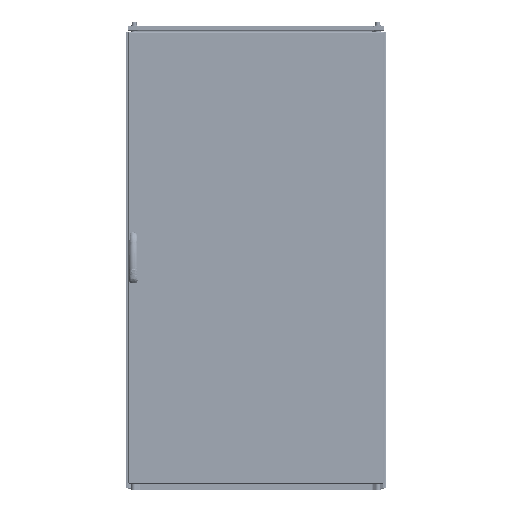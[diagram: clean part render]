
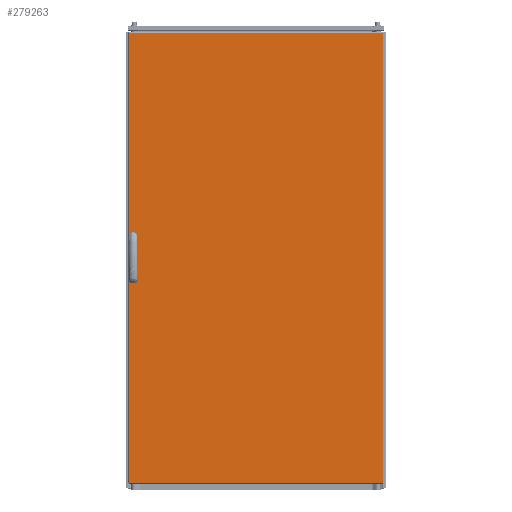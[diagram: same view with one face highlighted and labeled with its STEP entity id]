
A CAD part, top view. The second image highlights one B-rep face of the part: STEP entity #279263.
In plain terms, the highlighted planar face has unit normal (0, 0, 1).
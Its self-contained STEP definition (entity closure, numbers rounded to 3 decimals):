
#6264 = EDGE_CURVE ( 'NONE', #303067, #161974, #16558, .T. ) ;
#6282 = VECTOR ( 'NONE', #219604, 1000. ) ;
#15053 = VERTEX_POINT ( 'NONE', #223312 ) ;
#16558 = LINE ( 'NONE', #192201, #137229 ) ;
#18569 = DIRECTION ( 'NONE',  ( 1., 0., 0. ) ) ;
#18626 = DIRECTION ( 'NONE',  ( 0., 1., 0. ) ) ;
#20333 = CARTESIAN_POINT ( 'NONE',  ( 0., 1760., 19. ) ) ;
#20357 = VERTEX_POINT ( 'NONE', #159128 ) ;
#29603 = DIRECTION ( 'NONE',  ( 0., 0., 1. ) ) ;
#32274 = CARTESIAN_POINT ( 'NONE',  ( 9.7, 799.75, 19. ) ) ;
#33797 = ORIENTED_EDGE ( 'NONE', *, *, #60694, .F. ) ;
#40255 = CARTESIAN_POINT ( 'NONE',  ( 28.7, 912.25, 19. ) ) ;
#40417 = ORIENTED_EDGE ( 'NONE', *, *, #186227, .T. ) ;
#41315 = EDGE_CURVE ( 'NONE', #105192, #101961, #77697, .T. ) ;
#44443 = EDGE_CURVE ( 'NONE', #243345, #311899, #150021, .T. ) ;
#45154 = FACE_BOUND ( 'NONE', #300163, .T. ) ;
#47299 = DIRECTION ( 'NONE',  ( 1., 0., 0. ) ) ;
#48522 = ORIENTED_EDGE ( 'NONE', *, *, #173273, .F. ) ;
#52817 = DIRECTION ( 'NONE',  ( 0., -1., 0. ) ) ;
#56467 = CIRCLE ( 'NONE', #267921, 9.5 ) ;
#60340 = CARTESIAN_POINT ( 'NONE',  ( 9.7, 847.75, 19. ) ) ;
#60679 = VECTOR ( 'NONE', #204133, 1000. ) ;
#60694 = EDGE_CURVE ( 'NONE', #192522, #20357, #76109, .T. ) ;
#66518 = EDGE_CURVE ( 'NONE', #15053, #243523, #135951, .T. ) ;
#66730 = FACE_BOUND ( 'NONE', #274162, .T. ) ;
#72667 = CARTESIAN_POINT ( 'NONE',  ( 28.7, 799.75, 19. ) ) ;
#73287 = DIRECTION ( 'NONE',  ( 0., 0., -1. ) ) ;
#73477 = ORIENTED_EDGE ( 'NONE', *, *, #41315, .F. ) ;
#76109 = CIRCLE ( 'NONE', #303645, 9.5 ) ;
#77697 = LINE ( 'NONE', #178788, #289964 ) ;
#87834 = DIRECTION ( 'NONE',  ( 0., 1., 0. ) ) ;
#93196 = FACE_OUTER_BOUND ( 'NONE', #203738, .T. ) ;
#98853 = CARTESIAN_POINT ( 'NONE',  ( 19.2, 799.75, 19. ) ) ;
#100483 = DIRECTION ( 'NONE',  ( 1., 0., 0. ) ) ;
#101961 = VERTEX_POINT ( 'NONE', #32274 ) ;
#102337 = ORIENTED_EDGE ( 'NONE', *, *, #212065, .T. ) ;
#105192 = VERTEX_POINT ( 'NONE', #60340 ) ;
#119734 = ORIENTED_EDGE ( 'NONE', *, *, #290621, .F. ) ;
#122075 = DIRECTION ( 'NONE',  ( 0., 0., 1. ) ) ;
#127449 = CARTESIAN_POINT ( 'NONE',  ( 3., 1757., 19. ) ) ;
#127840 = LINE ( 'NONE', #281919, #60679 ) ;
#129005 = CARTESIAN_POINT ( 'NONE',  ( 19.2, 912.25, 19. ) ) ;
#131526 = CARTESIAN_POINT ( 'NONE',  ( 3., 3., 19. ) ) ;
#135951 = CIRCLE ( 'NONE', #321097, 9.5 ) ;
#137229 = VECTOR ( 'NONE', #87834, 1000. ) ;
#141328 = PLANE ( 'NONE',  #177182 ) ;
#144443 = DIRECTION ( 'NONE',  ( 0., 0., 1. ) ) ;
#146650 = CARTESIAN_POINT ( 'NONE',  ( 3., 1760., 19. ) ) ;
#147822 = DIRECTION ( 'NONE',  ( -1., 0., 0. ) ) ;
#150021 = LINE ( 'NONE', #178185, #158407 ) ;
#154670 = ORIENTED_EDGE ( 'NONE', *, *, #6264, .F. ) ;
#156858 = ORIENTED_EDGE ( 'NONE', *, *, #181790, .T. ) ;
#158407 = VECTOR ( 'NONE', #47299, 1000. ) ;
#159128 = CARTESIAN_POINT ( 'NONE',  ( 9.7, 960.25, 19. ) ) ;
#159159 = VERTEX_POINT ( 'NONE', #127449 ) ;
#161974 = VERTEX_POINT ( 'NONE', #165553 ) ;
#162843 = LINE ( 'NONE', #243960, #263402 ) ;
#165553 = CARTESIAN_POINT ( 'NONE',  ( 28.7, 847.75, 19. ) ) ;
#173273 = EDGE_CURVE ( 'NONE', #101961, #303067, #56467, .T. ) ;
#177182 = AXIS2_PLACEMENT_3D ( 'NONE', #20333, #73287, #293752 ) ;
#178185 = CARTESIAN_POINT ( 'NONE',  ( 0., 3., 19. ) ) ;
#178788 = CARTESIAN_POINT ( 'NONE',  ( 9.7, 847.75, 19. ) ) ;
#181790 = EDGE_CURVE ( 'NONE', #159159, #243345, #224582, .T. ) ;
#184815 = EDGE_CURVE ( 'NONE', #243523, #192522, #193125, .T. ) ;
#186227 = EDGE_CURVE ( 'NONE', #311899, #205613, #162843, .T. ) ;
#189832 = CARTESIAN_POINT ( 'NONE',  ( 28.7, 960.25, 19. ) ) ;
#190713 = CARTESIAN_POINT ( 'NONE',  ( 28.7, 960.25, 19. ) ) ;
#192201 = CARTESIAN_POINT ( 'NONE',  ( 28.7, 847.75, 19. ) ) ;
#192522 = VERTEX_POINT ( 'NONE', #190713 ) ;
#193125 = LINE ( 'NONE', #189832, #6282 ) ;
#203738 = EDGE_LOOP ( 'NONE', ( #40417, #102337, #156858, #312945 ) ) ;
#204133 = DIRECTION ( 'NONE',  ( 0., -1., 0. ) ) ;
#205613 = VERTEX_POINT ( 'NONE', #216848 ) ;
#208540 = DIRECTION ( 'NONE',  ( 1., 0., 0. ) ) ;
#210137 = DIRECTION ( 'NONE',  ( 0., 0., 1. ) ) ;
#212065 = EDGE_CURVE ( 'NONE', #205613, #159159, #303540, .T. ) ;
#216848 = CARTESIAN_POINT ( 'NONE',  ( 992., 1757., 19. ) ) ;
#219604 = DIRECTION ( 'NONE',  ( 0., 1., 0. ) ) ;
#223312 = CARTESIAN_POINT ( 'NONE',  ( 9.7, 912.25, 19. ) ) ;
#224582 = LINE ( 'NONE', #146650, #324678 ) ;
#233359 = DIRECTION ( 'NONE',  ( 1., 0., 0. ) ) ;
#234459 = AXIS2_PLACEMENT_3D ( 'NONE', #286318, #210137, #233359 ) ;
#240295 = ORIENTED_EDGE ( 'NONE', *, *, #184815, .F. ) ;
#242279 = CARTESIAN_POINT ( 'NONE',  ( 19.2, 960.25, 19. ) ) ;
#243345 = VERTEX_POINT ( 'NONE', #131526 ) ;
#243523 = VERTEX_POINT ( 'NONE', #40255 ) ;
#243960 = CARTESIAN_POINT ( 'NONE',  ( 992., 1760., 19. ) ) ;
#247768 = DIRECTION ( 'NONE',  ( 0., -1., 0. ) ) ;
#248696 = VECTOR ( 'NONE', #147822, 1000. ) ;
#254309 = EDGE_CURVE ( 'NONE', #20357, #15053, #127840, .T. ) ;
#263402 = VECTOR ( 'NONE', #18626, 1000. ) ;
#267921 = AXIS2_PLACEMENT_3D ( 'NONE', #98853, #122075, #100483 ) ;
#274162 = EDGE_LOOP ( 'NONE', ( #73477, #119734, #154670, #48522 ) ) ;
#279263 = ADVANCED_FACE ( 'NONE', ( #66730, #45154, #93196 ), #141328, .F. ) ;
#281919 = CARTESIAN_POINT ( 'NONE',  ( 9.7, 960.25, 19. ) ) ;
#286318 = CARTESIAN_POINT ( 'NONE',  ( 19.2, 847.75, 19. ) ) ;
#289964 = VECTOR ( 'NONE', #52817, 1000. ) ;
#290621 = EDGE_CURVE ( 'NONE', #161974, #105192, #308700, .T. ) ;
#293752 = DIRECTION ( 'NONE',  ( -1., 0., 0. ) ) ;
#300163 = EDGE_LOOP ( 'NONE', ( #324263, #33797, #240295, #324813 ) ) ;
#303067 = VERTEX_POINT ( 'NONE', #72667 ) ;
#303540 = LINE ( 'NONE', #325136, #248696 ) ;
#303645 = AXIS2_PLACEMENT_3D ( 'NONE', #242279, #144443, #18569 ) ;
#308700 = CIRCLE ( 'NONE', #234459, 9.5 ) ;
#311899 = VERTEX_POINT ( 'NONE', #324051 ) ;
#312945 = ORIENTED_EDGE ( 'NONE', *, *, #44443, .T. ) ;
#321097 = AXIS2_PLACEMENT_3D ( 'NONE', #129005, #29603, #208540 ) ;
#324051 = CARTESIAN_POINT ( 'NONE',  ( 992., 3., 19. ) ) ;
#324263 = ORIENTED_EDGE ( 'NONE', *, *, #254309, .F. ) ;
#324678 = VECTOR ( 'NONE', #247768, 1000. ) ;
#324813 = ORIENTED_EDGE ( 'NONE', *, *, #66518, .F. ) ;
#325136 = CARTESIAN_POINT ( 'NONE',  ( 0., 1757., 19. ) ) ;
